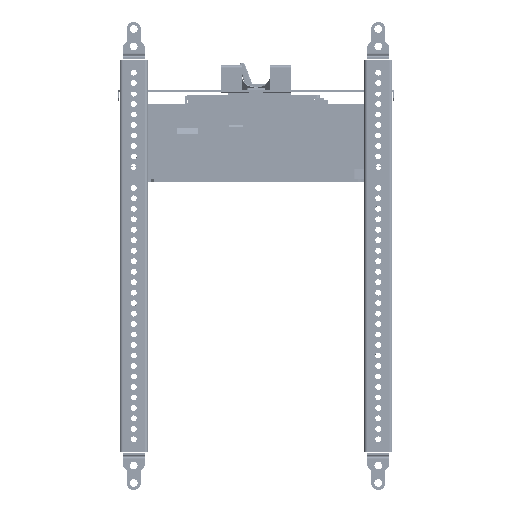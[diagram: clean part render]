
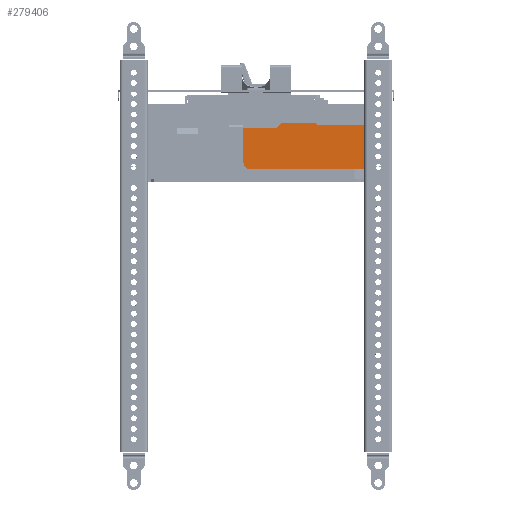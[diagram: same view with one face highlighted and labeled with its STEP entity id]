
A CAD part, left-side view. The second image highlights one B-rep face of the part: STEP entity #279406.
In plain terms, the highlighted planar face has unit normal (-1, 0, 0).
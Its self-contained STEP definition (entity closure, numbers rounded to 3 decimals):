
#250696=CARTESIAN_POINT(' ',(-266.961,-40.967,-27.147));
#250697=VERTEX_POINT(' ',#250696);
#250711=CARTESIAN_POINT(' ',(-266.961,-40.967,-27.147));
#250716=DIRECTION(' ',(0.,-1.,0.));
#250721=VECTOR(' ',#250716,1.);
#250726=LINE('',#250711,#250721);
#250731=CARTESIAN_POINT(' ',(-266.961,-41.201,-27.147));
#250732=VERTEX_POINT(' ',#250731);
#250736=EDGE_CURVE(' ',#250697,#250732,#250726,.T.);
#251186=CARTESIAN_POINT(' ',(-266.961,-75.967,-58.647));
#251187=VERTEX_POINT(' ',#251186);
#251201=CARTESIAN_POINT(' ',(-266.961,-75.967,-58.647));
#251206=DIRECTION(' ',(0.,1.,0.));
#251211=VECTOR(' ',#251206,1.);
#251216=LINE('',#251201,#251211);
#251221=CARTESIAN_POINT(' ',(-266.961,7.033,-58.647));
#251222=VERTEX_POINT(' ',#251221);
#251226=EDGE_CURVE(' ',#251187,#251222,#251216,.T.);
#251316=CARTESIAN_POINT(' ',(-266.961,12.033,-29.147));
#251321=DIRECTION(' ',(0.,0.,-1.));
#251326=VECTOR(' ',#251321,1.);
#251331=LINE('',#251316,#251326);
#251336=CARTESIAN_POINT(' ',(-266.961,12.033,-29.147));
#251337=VERTEX_POINT(' ',#251336);
#251341=CARTESIAN_POINT(' ',(-266.961,12.033,-53.647));
#251342=VERTEX_POINT(' ',#251341);
#251346=EDGE_CURVE(' ',#251337,#251342,#251331,.T.);
#251606=CARTESIAN_POINT(' ',(-266.961,7.034,-53.648));
#251611=DIRECTION(' ',(1.,0.,-0.));
#251616=DIRECTION(' ',(0.,0.,-1.));
#251621=AXIS2_PLACEMENT_3D(' ',#251606,#251611,#251616);
#251626=CIRCLE('',#251621,4.999);
#251631=EDGE_CURVE(' ',#251222,#251342,#251626,.T.);
#279081=CARTESIAN_POINT(' ',(-266.961,-39.467,-25.647));
#279082=VERTEX_POINT(' ',#279081);
#279096=CARTESIAN_POINT(' ',(-266.961,-39.467,-25.647));
#279101=DIRECTION(' ',(0.,-0.707,-0.707));
#279106=VECTOR(' ',#279101,1.);
#279111=LINE('',#279096,#279106);
#279116=EDGE_CURVE(' ',#279082,#250697,#279111,.T.);
#279146=DIRECTION(' ',(-1.,0.,-0.));
#279151=CARTESIAN_POINT(' ',(-266.961,-75.967,-58.647));
#279156=DIRECTION(' ',(0.,-0.,1.));
#279161=AXIS2_PLACEMENT_3D(' ',#279151,#279146,#279156);
#279166=PLANE('NONE',#279161);
#279171=CARTESIAN_POINT(' ',(-266.961,-11.467,-29.147));
#279176=DIRECTION(' ',(0.,-0.707,0.707));
#279181=VECTOR(' ',#279176,1.);
#279186=LINE('',#279171,#279181);
#279191=CARTESIAN_POINT(' ',(-266.961,-11.467,-29.147));
#279192=VERTEX_POINT(' ',#279191);
#279196=CARTESIAN_POINT(' ',(-266.961,-14.967,-25.647));
#279197=VERTEX_POINT(' ',#279196);
#279201=EDGE_CURVE(' ',#279192,#279197,#279186,.T.);
#279206=ORIENTED_EDGE(' ',*,*,#279201,.F.);
#279211=CARTESIAN_POINT(' ',(-266.961,-11.467,-29.147));
#279216=DIRECTION(' ',(0.,1.,0.));
#279221=VECTOR(' ',#279216,1.);
#279226=LINE('',#279211,#279221);
#279231=CARTESIAN_POINT(' ',(-266.961,-11.267,-29.147));
#279232=VERTEX_POINT(' ',#279231);
#279236=EDGE_CURVE(' ',#279192,#279232,#279226,.T.);
#279241=ORIENTED_EDGE(' ',*,*,#279236,.T.);
#279246=CARTESIAN_POINT(' ',(-266.961,12.033,-29.147));
#279251=DIRECTION(' ',(0.,-1.,0.));
#279256=VECTOR(' ',#279251,1.);
#279261=LINE('',#279246,#279256);
#279266=EDGE_CURVE(' ',#251337,#279232,#279261,.T.);
#279271=ORIENTED_EDGE(' ',*,*,#279266,.F.);
#279276=ORIENTED_EDGE(' ',*,*,#251346,.T.);
#279281=ORIENTED_EDGE(' ',*,*,#251631,.F.);
#279286=ORIENTED_EDGE(' ',*,*,#251226,.F.);
#279291=CARTESIAN_POINT(' ',(-266.961,-75.967,-27.147));
#279296=DIRECTION(' ',(0.,0.,-1.));
#279301=VECTOR(' ',#279296,1.);
#279306=LINE('',#279291,#279301);
#279311=CARTESIAN_POINT(' ',(-266.961,-75.967,-27.147));
#279312=VERTEX_POINT(' ',#279311);
#279316=EDGE_CURVE(' ',#279312,#251187,#279306,.T.);
#279321=ORIENTED_EDGE(' ',*,*,#279316,.F.);
#279326=CARTESIAN_POINT(' ',(-266.961,-41.201,-27.147));
#279331=DIRECTION(' ',(0.,-1.,0.));
#279336=VECTOR(' ',#279331,1.);
#279341=LINE('',#279326,#279336);
#279346=EDGE_CURVE(' ',#250732,#279312,#279341,.T.);
#279351=ORIENTED_EDGE(' ',*,*,#279346,.F.);
#279356=ORIENTED_EDGE(' ',*,*,#250736,.F.);
#279361=ORIENTED_EDGE(' ',*,*,#279116,.F.);
#279366=CARTESIAN_POINT(' ',(-266.961,-14.967,-25.647));
#279371=DIRECTION(' ',(0.,-1.,0.));
#279376=VECTOR(' ',#279371,1.);
#279381=LINE('',#279366,#279376);
#279386=EDGE_CURVE(' ',#279197,#279082,#279381,.T.);
#279391=ORIENTED_EDGE(' ',*,*,#279386,.F.);
#279396=EDGE_LOOP(' ',(#279206,#279241,#279271,#279276,#279281,#279286,#279321,#279351,#279356,#279361,#279391));
#279401=FACE_OUTER_BOUND(' ',#279396,.T.);
#279406=ADVANCED_FACE('NONE',(#279401),#279166,.T.);
